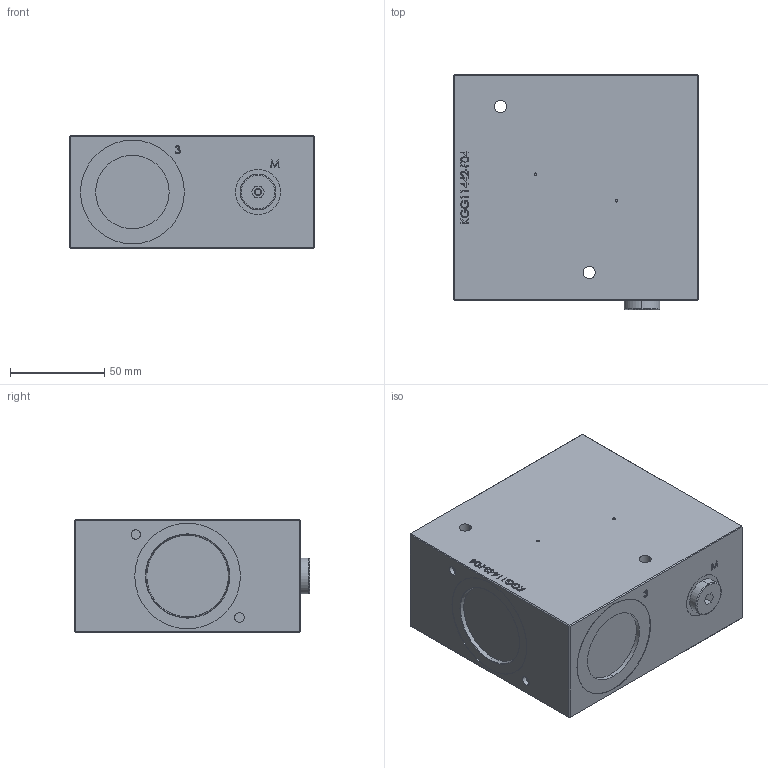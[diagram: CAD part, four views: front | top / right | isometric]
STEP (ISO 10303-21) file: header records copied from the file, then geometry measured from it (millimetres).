
FILE_DESCRIPTION (( 'STEP AP214' ), '1' );
FILE_NAME ('KGG11442-F04.STEP', '2016-11-28T07:38:51', ( '' ), ( '' ), 'SwSTEP 2.0', 'SolidWorks 2014', '' );
FILE_SCHEMA (( 'AUTOMOTIVE_DESIGN' ));
Length unit declared in the file: millimetre
Products named in the file (2): KGG11442-F04
Bounding box: 130 x 124.7 x 60 mm (x, y, z)
Volume: 915701.3 mm3; surface area: 66008.3 mm2
Topology: 2 solids, 3 shells, 289 faces, 713 edges, 466 vertices
Faces by surface type: plane 190, bspline 53, cylinder 38, torus 4, cone 4
Entity records: 14953 total; most frequent: CARTESIAN_POINT 5227, ORIENTED_EDGE 1426, DIRECTION 1175, EDGE_CURVE 713, LINE 515, VECTOR 515, VERTEX_POINT 466, EDGE_LOOP 333
